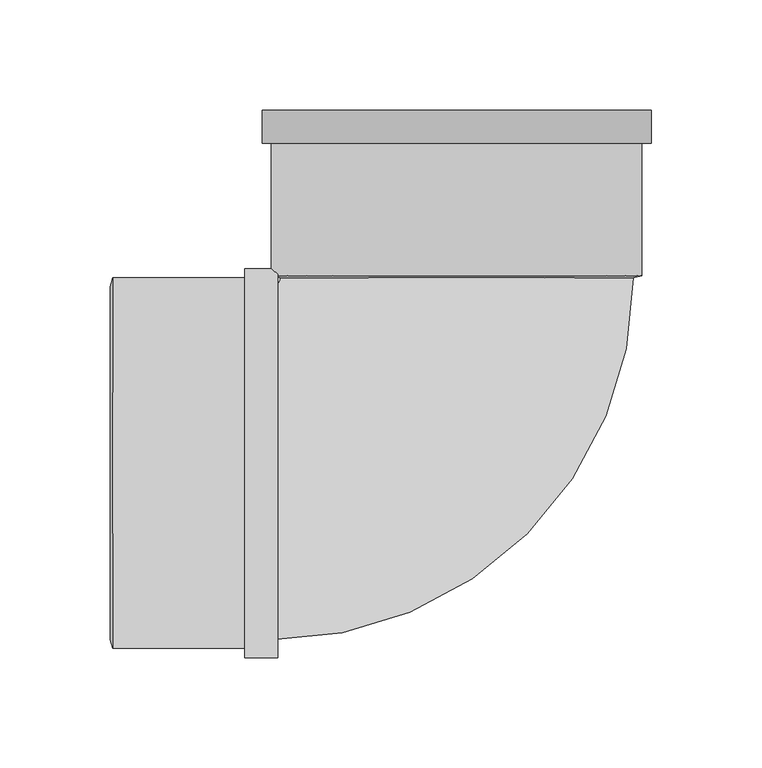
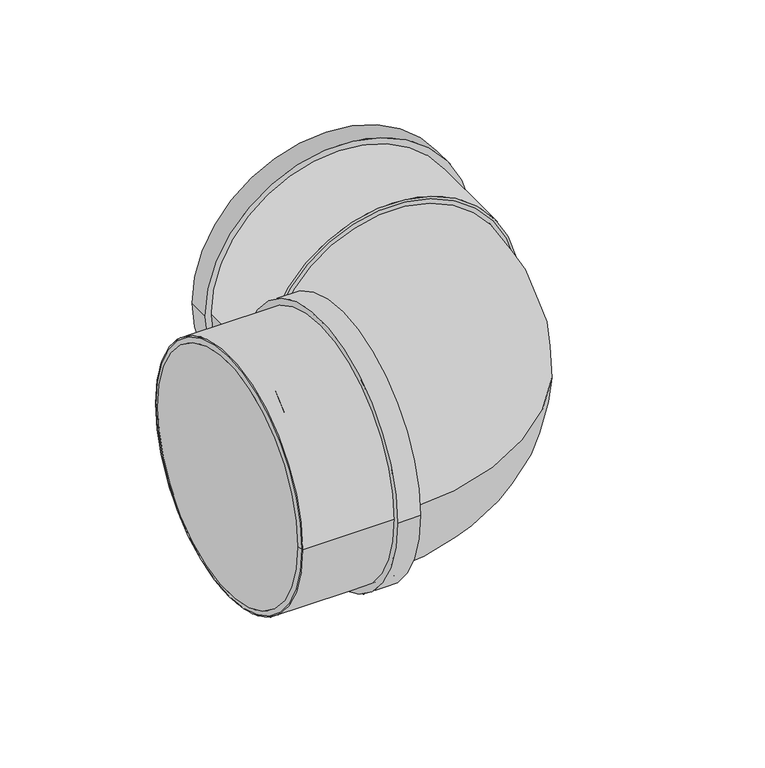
"""IFC4 building model written with IfcOpenShell, lengths in millimetres: pipe fitting geometry, Superdrain HT Bend Composite 2x45 : Superdrain HT Bend Composite 2x45."""

import ifcopenshell
import ifcopenshell.guid

model = None  # the IFC model being written
_history = None  # IfcOwnerHistory: only IFC2X3 demands one
_inside = {}  # id of a spatial element -> (the spatial element, [elements in it])
_under = {}  # id of a project, library or spatial element -> (it, [spatial elements below it])
_declared = {}  # id of a project -> (the project, [libraries it declares])
_typed = {}  # id of a type object -> (the type object, [elements of that type])
_made_of = {}  # id of a material, layer set ... -> (it, [elements and type objects made of it])


def new_model(schema):
    """Start an empty IFC model of exactly this schema.

    Asked for "IFC4X3", IfcOpenShell would pick the latest addendum, in which some entities
    have other attributes; the version numbers below select the first issue.
    IFC2X3 requires an IfcOwnerHistory on every rooted entity: one is made here for all.
    """
    global model, _history
    if schema == "IFC4X3":
        model = ifcopenshell.file(schema_version=(4, 3, 0, 0))
    else:
        model = ifcopenshell.file(schema=schema)
    _inside.clear()
    _under.clear()
    _declared.clear()
    _typed.clear()
    _made_of.clear()
    _history = None
    if model.schema == "IFC2X3":
        org = make("IfcOrganization", Name="unknown")
        user = make(
            "IfcPersonAndOrganization",
            ThePerson=make("IfcPerson", FamilyName="unknown"),
            TheOrganization=org,
        )
        app = make(
            "IfcApplication",
            ApplicationDeveloper=org,
            Version="unknown",
            ApplicationFullName="unknown",
            ApplicationIdentifier="unknown",
        )
        _history = make(
            "IfcOwnerHistory",
            OwningUser=user,
            OwningApplication=app,
            ChangeAction="ADDED",
            CreationDate=0,
        )
    return model


def make(cls, **values):
    """One entity of the class cls with the attributes given. An attribute that is None is left unset."""
    return model.create_entity(
        cls, **{name: value for name, value in values.items() if value is not None}
    )


def rooted(cls, **values):
    """An entity with a GlobalId (a new one), such as an element, a storey or a relation."""
    return make(cls, GlobalId=ifcopenshell.guid.new(), OwnerHistory=_history, **values)


def si_unit(unit_type, name, prefix=None):
    """IfcSIUnit, for example si_unit("LENGTHUNIT", "METRE", prefix="MILLI")."""
    return make("IfcSIUnit", UnitType=unit_type, Prefix=prefix, Name=name)


def assignment(units):
    """IfcUnitAssignment: the units of a project."""
    return None if units is None else make("IfcUnitAssignment", Units=units)


def point(xyz):
    """IfcCartesianPoint."""
    return None if xyz is None else make("IfcCartesianPoint", Coordinates=xyz)


def direction(xyz):
    """IfcDirection."""
    return None if xyz is None else make("IfcDirection", DirectionRatios=xyz)


def frame(location, z_axis=None, x_axis=None):
    """IfcAxis2Placement3D, a coordinate frame: its origin and axes. An axis left out is left unset."""
    return make(
        "IfcAxis2Placement3D",
        Location=point(location),
        Axis=direction(z_axis),
        RefDirection=direction(x_axis),
    )


def frame_2d(location, x_axis=None):
    """IfcAxis2Placement2D, a coordinate frame in the plane: its origin and x axis."""
    return make(
        "IfcAxis2Placement2D", Location=point(location), RefDirection=direction(x_axis)
    )


def origin():
    """The frame at (0, 0, 0) with its axes left unset."""
    return frame((0.0, 0.0, 0.0))


def origin_2d():
    """The frame at (0, 0) in the plane with its x axis left unset."""
    return frame_2d((0.0, 0.0))


def place(relative_to, where):
    """IfcLocalPlacement: puts the frame where relative to a parent placement (None: the world)."""
    return make(
        "IfcLocalPlacement", PlacementRelTo=relative_to, RelativePlacement=where
    )


def context(
    kind, dimensions, precision=None, world=None, true_north=None, identifier=None
):
    """IfcGeometricRepresentationContext, for example the 3D "Model" context."""
    return make(
        "IfcGeometricRepresentationContext",
        ContextIdentifier=identifier,
        ContextType=kind,
        CoordinateSpaceDimension=dimensions,
        Precision=precision,
        WorldCoordinateSystem=world,
        TrueNorth=true_north,
    )


def project(units=None, contexts=None):
    """IfcProject with its units and contexts."""
    return rooted(
        "IfcProject",
        Name="project",
        RepresentationContexts=contexts,
        UnitsInContext=assignment(units),
    )


def spatial(cls, under=None, at=None, **own):
    """A site, building, storey or space (cls), placed at a placement, below another one or the project."""
    s = rooted(cls, ObjectPlacement=at, **own)
    if under is not None:
        _under.setdefault(under.id(), (under, []))[1].append(s)
    return s


def polyline(points):
    """IfcPolyline through the points."""
    return make("IfcPolyline", Points=[point(p) for p in points])


def circle_curve(where, radius):
    """IfcCircle in the frame where."""
    return make("IfcCircle", Position=where, Radius=radius)


def ellipse_curve(where, semi_axis1, semi_axis2):
    """IfcEllipse in the frame where."""
    return make(
        "IfcEllipse", Position=where, SemiAxis1=semi_axis1, SemiAxis2=semi_axis2
    )


def trimmed(basis, trim1, trim2, sense, master):
    """IfcTrimmedCurve: the piece of a basis curve between two trims."""
    return make(
        "IfcTrimmedCurve",
        BasisCurve=basis,
        Trim1=trim1,
        Trim2=trim2,
        SenseAgreement=sense,
        MasterRepresentation=master,
    )


def segment(curve, same_sense, transition):
    """IfcCompositeCurveSegment."""
    return make(
        "IfcCompositeCurveSegment",
        Transition=transition,
        SameSense=same_sense,
        ParentCurve=curve,
    )


def composite_curve(segments, self_intersect=None):
    """IfcCompositeCurve: segments joined end to end."""
    return make("IfcCompositeCurve", Segments=segments, SelfIntersect=self_intersect)


def outline(outer, holes=None, kind="AREA"):
    """IfcArbitraryClosedProfileDef: a profile drawn as a closed curve; with holes, ...WithVoids."""
    if holes is None:
        return make("IfcArbitraryClosedProfileDef", ProfileType=kind, OuterCurve=outer)
    return make(
        "IfcArbitraryProfileDefWithVoids",
        ProfileType=kind,
        OuterCurve=outer,
        InnerCurves=holes,
    )


def extrude(swept, where, along, depth):
    """IfcExtrudedAreaSolid: the profile swept, set in the frame where, extruded along a direction by depth."""
    return make(
        "IfcExtrudedAreaSolid",
        SweptArea=swept,
        Position=where,
        ExtrudedDirection=direction(along),
        Depth=depth,
    )


def shape(context_of_items, identifier, shape_type, items):
    """IfcShapeRepresentation: the items that make up one representation, for example the "Body"."""
    return make(
        "IfcShapeRepresentation",
        ContextOfItems=context_of_items,
        RepresentationIdentifier=identifier,
        RepresentationType=shape_type,
        Items=items,
    )


def source(mapping_origin, context_of_items, identifier, shape_type, items):
    """IfcRepresentationMap: a shape defined once, which mapped items show again and again."""
    return make(
        "IfcRepresentationMap",
        MappingOrigin=mapping_origin,
        MappedRepresentation=shape(context_of_items, identifier, shape_type, items),
    )


def transform(
    local_origin,
    x_axis=None,
    y_axis=None,
    z_axis=None,
    scale=None,
    scale2=None,
    scale3=None,
    uniform=True,
):
    """IfcCartesianTransformationOperator3D, or its non-uniform kind. x_axis, y_axis, z_axis: its Axis1, 2, 3."""
    if uniform:
        return make(
            "IfcCartesianTransformationOperator3D",
            Axis1=direction(x_axis),
            Axis2=direction(y_axis),
            LocalOrigin=point(local_origin),
            Scale=scale,
            Axis3=direction(z_axis),
        )
    return make(
        "IfcCartesianTransformationOperator3DnonUniform",
        Axis1=direction(x_axis),
        Axis2=direction(y_axis),
        LocalOrigin=point(local_origin),
        Scale=scale,
        Axis3=direction(z_axis),
        Scale2=scale2,
        Scale3=scale3,
    )


def mapped(mapping_source, mapping_target):
    """IfcMappedItem: shows the shape of a source again, moved by a transform."""
    return make(
        "IfcMappedItem", MappingSource=mapping_source, MappingTarget=mapping_target
    )


def made_of(thing, what):
    """Note that an element or type object is made of a material, layer set ...; save() writes the relation."""
    if what is not None:
        _made_of.setdefault(what.id(), (what, []))[1].append(thing)
    return thing


def element(
    cls,
    number,
    at=None,
    inside=None,
    cuts=None,
    type_object=None,
    material=None,
    context=None,
    identifier="Body",
    shape_type=None,
    held_by="IfcProductDefinitionShape",
    body=None,
    shapes=None,
    **own,
):
    """One element of the class cls, such as IfcWall. Its Tag is "e" and its number.

    at: its placement. inside: the storey or other place that contains it. cuts: it is an
    opening in that element (IfcRelVoidsElement). A single representation is given by context,
    identifier, shape_type and body (its items); several are given by shapes. held_by: the class
    of the entity that holds the representations. save() writes the other relations.
    """
    e = rooted(cls, Tag="e%d" % number, ObjectPlacement=at, **own)
    if body is not None:
        shapes = [shape(context, identifier, shape_type, body)]
    if shapes is not None:
        e.Representation = make(held_by, Representations=shapes)
    if inside is not None:
        _inside.setdefault(inside.id(), (inside, []))[1].append(e)
    if cuts is not None:
        rooted(
            "IfcRelVoidsElement", RelatingBuildingElement=cuts, RelatedOpeningElement=e
        )
    if type_object is not None:
        _typed.setdefault(type_object.id(), (type_object, []))[1].append(e)
    return made_of(e, material)


def aggregate(whole, parts):
    """IfcRelAggregates: a whole, such as a stair, and the parts it consists of."""
    return rooted("IfcRelAggregates", RelatingObject=whole, RelatedObjects=parts)


def save(model, path):
    """Write the relations noted so far, then the file.

    IfcRelAggregates (storeys below a building ...), IfcRelContainedInSpatialStructure (elements
    in a storey), IfcRelDefinesByType, IfcRelAssociatesMaterial and IfcRelDeclares: one each for
    every whole, place, type object, material and project.
    """
    for whole, parts in _under.values():
        aggregate(whole, parts)
    for where, things in _inside.values():
        rooted(
            "IfcRelContainedInSpatialStructure",
            RelatedElements=things,
            RelatingStructure=where,
        )
    for kind, things in _typed.values():
        rooted("IfcRelDefinesByType", RelatedObjects=things, RelatingType=kind)
    for what, things in _made_of.values():
        rooted("IfcRelAssociatesMaterial", RelatedObjects=things, RelatingMaterial=what)
    for by, libraries in _declared.values():
        rooted("IfcRelDeclares", RelatingContext=by, RelatedDefinitions=libraries)
    model.write(path)


def plane_surface(at):
    """IfcPlane: the flat surface through the origin of the frame at, square to its z axis."""
    return make("IfcPlane", Position=at)


def revolved_surface(curve, axis_point, axis_direction):
    """IfcSurfaceOfRevolution: the curve turned about the line through axis_point along axis_direction."""
    return make(
        "IfcSurfaceOfRevolution",
        SweptCurve=make("IfcArbitraryOpenProfileDef", ProfileType="CURVE", Curve=curve),
        AxisPosition=make("IfcAxis1Placement", Location=point(axis_point), Axis=direction(axis_direction)),
    )


def advanced_brep(points, edges, surfaces, faces):
    """IfcAdvancedBrep: a solid bounded by faces that lie on surfaces and meet in shared edges.

    An edge is (start, end): straight between two places in points (the first is 0);
    or (start, end, curve); or (start, end, curve, False) where it runs against its curve.
    A face is (place in surfaces, loops), or (place, loops, False) where it looks against
    its surface's normal. A loop lists edges by number (the first is 1), with a minus sign
    where the edge is run from its end to its start. The first loop is the outer one.
    """
    corners = [point(p) for p in points]
    vertices = [make("IfcVertexPoint", VertexGeometry=c) for c in corners]
    made = []
    for start, end, *more in edges:
        made.append(
            make(
                "IfcEdgeCurve",
                EdgeStart=vertices[start],
                EdgeEnd=vertices[end],
                EdgeGeometry=more[0] if more else make("IfcPolyline", Points=[corners[start], corners[end]]),
                SameSense=more[1] if len(more) > 1 else True,
            )
        )
    hull = []
    for where, loops, *sense in faces:
        bounds = []
        for j, loop in enumerate(loops):
            ring = [make("IfcOrientedEdge", EdgeElement=made[abs(k) - 1], Orientation=k > 0) for k in loop]
            bounds.append(
                make(
                    "IfcFaceOuterBound" if j == 0 else "IfcFaceBound",
                    Bound=make("IfcEdgeLoop", EdgeList=ring),
                    Orientation=True,
                )
            )
        hull.append(make("IfcAdvancedFace", Bounds=bounds, FaceSurface=surfaces[where], SameSense=sense[0] if sense else True))
    return make("IfcAdvancedBrep", Outer=make("IfcClosedShell", CfsFaces=hull))


def pipe_fitting_de0aebfd(model_context):
    return source(origin(), model_context, "Body", "SolidModel", [
        extrude(outline(composite_curve([segment(trimmed(circle_curve(origin_2d(), 84.0), [point((84.0, 0.0))], [point((-84.0, 0.0))], False, "CARTESIAN"), True, "CONTINUOUS"), segment(trimmed(circle_curve(origin_2d(), 84.0), [point((-84.0, 0.0))], [point((84.0, 0.0))], False, "CARTESIAN"), True, "CONTINUOUS")], self_intersect=False), holes=[composite_curve([segment(trimmed(circle_curve(origin_2d(), 80.0), [point((80.0, 0.0))], [point((-80.0, 0.0))], True, "CARTESIAN"), True, "CONTINUOUS"), segment(trimmed(circle_curve(origin_2d(), 80.0), [point((-80.0, 0.0))], [point((80.0, 0.0))], True, "CARTESIAN"), True, "CONTINUOUS")], self_intersect=False)]), frame((-156.0, 0.0, 0.0), z_axis=(1.0, 0.0, 0.0), x_axis=(0.0, 1.0, 0.0)), (0.0, 0.0, 1.0), 75.0),
        extrude(outline(composite_curve([segment(trimmed(circle_curve(origin_2d(), 88.2), [point((88.2, 0.0))], [point((-88.2, 0.0))], False, "CARTESIAN"), True, "CONTINUOUS"), segment(trimmed(circle_curve(origin_2d(), 88.2), [point((-88.2, 0.0))], [point((88.2, 0.0))], False, "CARTESIAN"), True, "CONTINUOUS")], self_intersect=False), holes=[composite_curve([segment(trimmed(circle_curve(origin_2d(), 80.0), [point((80.0, 0.0))], [point((-80.0, 0.0))], True, "CARTESIAN"), True, "CONTINUOUS"), segment(trimmed(circle_curve(origin_2d(), 80.0), [point((-80.0, 0.0))], [point((80.0, 0.0))], True, "CARTESIAN"), True, "CONTINUOUS")], self_intersect=False)]), frame((-96.0, 0.0, 0.0), z_axis=(1.0, 0.0, 0.0), x_axis=(0.0, 1.0, 0.0)), (0.0, 0.0, 1.0), 15.0),
        advanced_brep(
        [(-157.0, 80.0, 0.0), (-157.0, -80.0, 0.0), (-156.0, 84.0, 0.0), (-156.0, -84.0, 0.0)],
        [
            (0, 1, circle_curve(frame((-157.0, 0.0, 0.0), z_axis=(-1.0, 0.0, 0.0), x_axis=(0.0, 1.0, 0.0)), 80.0)),
            (1, 0, circle_curve(frame((-157.0, 0.0, 0.0), z_axis=(-1.0, 0.0, 0.0), x_axis=(0.0, -1.0, 0.0)), 80.0)),
            (2, 3, circle_curve(frame((-156.0, 0.0, 0.0), z_axis=(1.0, 0.0, 0.0), x_axis=(0.0, -1.0, 0.0)), 84.0)),
            (3, 2, circle_curve(frame((-156.0, 0.0, 0.0), z_axis=(1.0, 0.0, 0.0), x_axis=(0.0, 1.0, 0.0)), 84.0)),
            (3, 1),
            (0, 2),
        ],
        [
            plane_surface(frame((-157.0, 0.0, 0.0), z_axis=(-1.0, 0.0, 0.0), x_axis=(0.0, 0.0, -1.0))),
            plane_surface(frame((-156.0, 0.0, 0.0), z_axis=(1.0, 0.0, 0.0), x_axis=(0.0, 0.0, -1.0))),
            revolved_surface(polyline([(-157.0, 80.0, 0.0), (-156.0, 84.0, 0.0)]), (-177.0, 0.0, 0.0), (1.0, 0.0, 0.0)),
            revolved_surface(polyline([(-157.0, -80.0, 0.0), (-156.0, -84.0, 0.0)]), (-177.0, 0.0, 0.0), (1.0, 0.0, 0.0)),
        ],
        [
            (0, [[1, 2]]),
            (1, [[3, 4]]),
            (2, [[-4, 5, -1, 6]]),
            (3, [[-3, -6, -2, -5]]),
        ],
    ),
        advanced_brep(
        [(80.0, 83.9, 0.0), (-80.0, 83.9, 0.0), (-83.9, -80.0, 0.0), (-83.9, 80.0, 0.0)],
        [
            (0, 1, circle_curve(frame((0.0, 83.9, 0.0), z_axis=(0.0, 1.0, 0.0), x_axis=(-1.0, 0.0, 0.0)), 80.0)),
            (1, 0, circle_curve(frame((0.0, 83.9, 0.0), z_axis=(0.0, 1.0, 0.0), x_axis=(-1.0, 0.0, 0.0)), 80.0)),
            (2, 3, circle_curve(frame((-83.9, 0.0, 0.0), z_axis=(-1.0, 0.0, 0.0), x_axis=(0.0, 1.0, 0.0)), 80.0)),
            (3, 2, circle_curve(frame((-83.9, 0.0, 0.0), z_axis=(-1.0, 0.0, 0.0), x_axis=(0.0, 1.0, 0.0)), 80.0)),
            (3, 1, circle_curve(frame((-83.9, 83.9, 0.0), z_axis=(0.0, 0.0, 1.0), x_axis=(1.0, 0.0, 0.0)), 3.9)),
            (0, 2, circle_curve(frame((-83.9, 83.9, 0.0), z_axis=(0.0, 0.0, -1.0), x_axis=(1.0, 0.0, 0.0)), 163.9)),
        ],
        [
            plane_surface(frame((0.0, 83.9, 0.0), z_axis=(0.0, 1.0, 0.0), x_axis=(0.0, 0.0, -1.0))),
            plane_surface(frame((-83.9, 0.0, 0.0), z_axis=(-1.0, 0.0, 0.0), x_axis=(0.0, 0.0, -1.0))),
            revolved_surface(trimmed(ellipse_curve(frame((0.0, 83.9, 0.0), z_axis=(0.0, -1.0, 0.0), x_axis=(-1.0, 0.0, 0.0)), 80.0, 80.0), [point((-80.0, 83.9, 0.0))], [point((80.0, 83.9, 0.0))], True, "CARTESIAN"), (-83.9, 83.9, 0.0), (0.0, 0.0, 1.0)),
            revolved_surface(trimmed(ellipse_curve(frame((0.0, 83.9, 0.0), z_axis=(0.0, -1.0, 0.0), x_axis=(-1.0, 0.0, 0.0)), 80.0, 80.0), [point((80.0, 83.9, 0.0))], [point((-80.0, 83.9, 0.0))], True, "CARTESIAN"), (-83.9, 83.9, 0.0), (0.0, 0.0, 1.0)),
        ],
        [
            (0, [[1, 2]]),
            (1, [[3, 4]]),
            (2, [[-4, 5, -1, 6]]),
            (3, [[-3, -6, -2, -5]]),
        ],
    ),
        extrude(outline(composite_curve([segment(trimmed(circle_curve(origin_2d(), 84.0), [point((0.0, 84.0))], [point((0.0, -84.0))], False, "CARTESIAN"), True, "CONTINUOUS"), segment(trimmed(circle_curve(origin_2d(), 84.0), [point((0.0, -84.0))], [point((0.0, 84.0))], False, "CARTESIAN"), True, "CONTINUOUS")], self_intersect=False), holes=[composite_curve([segment(trimmed(circle_curve(origin_2d(), 80.0), [point((0.0, 80.0))], [point((0.0, -80.0))], True, "CARTESIAN"), True, "CONTINUOUS"), segment(trimmed(circle_curve(origin_2d(), 80.0), [point((0.0, -80.0))], [point((0.0, 80.0))], True, "CARTESIAN"), True, "CONTINUOUS")], self_intersect=False)]), frame((0.0, 84.9, 0.0), z_axis=(0.0, 1.0, 0.0), x_axis=(0.0, 0.0, 1.0)), (0.0, 0.0, 1.0), 75.0),
        extrude(outline(composite_curve([segment(trimmed(circle_curve(origin_2d(), 88.2), [point((0.0, -88.2))], [point((0.0, 88.2))], False, "CARTESIAN"), True, "CONTINUOUS"), segment(trimmed(circle_curve(origin_2d(), 88.2), [point((0.0, 88.2))], [point((0.0, -88.2))], False, "CARTESIAN"), True, "CONTINUOUS")], self_intersect=False), holes=[composite_curve([segment(trimmed(circle_curve(origin_2d(), 80.0), [point((0.0, -80.0))], [point((0.0, 80.0))], True, "CARTESIAN"), True, "CONTINUOUS"), segment(trimmed(circle_curve(origin_2d(), 80.0), [point((0.0, 80.0))], [point((0.0, -80.0))], True, "CARTESIAN"), True, "CONTINUOUS")], self_intersect=False)]), frame((0.0, 144.9, 0.0), z_axis=(0.0, 1.0, 0.0), x_axis=(0.0, 0.0, 1.0)), (0.0, 0.0, 1.0), 15.0),
        advanced_brep(
        [(84.0, 84.9, 0.0), (-84.0, 84.9, 0.0), (80.0, 83.9, 0.0), (-80.0, 83.9, 0.0)],
        [
            (0, 1, circle_curve(frame((0.0, 84.9, 0.0), z_axis=(0.0, 1.0, 0.0), x_axis=(1.0, 0.0, 0.0)), 84.0)),
            (1, 0, circle_curve(frame((0.0, 84.9, 0.0), z_axis=(0.0, 1.0, 0.0), x_axis=(-1.0, 0.0, 0.0)), 84.0)),
            (2, 3, circle_curve(frame((0.0, 83.9, 0.0), z_axis=(0.0, -1.0, 0.0), x_axis=(-1.0, 0.0, 0.0)), 80.0)),
            (3, 2, circle_curve(frame((0.0, 83.9, 0.0), z_axis=(0.0, -1.0, 0.0), x_axis=(1.0, 0.0, 0.0)), 80.0)),
            (3, 1),
            (0, 2),
        ],
        [
            plane_surface(frame((0.0, 84.9, 0.0), z_axis=(0.0, 1.0, 0.0), x_axis=(0.0, 0.0, -1.0))),
            plane_surface(frame((0.0, 83.9, 0.0), z_axis=(0.0, -1.0, 0.0), x_axis=(0.0, 0.0, -1.0))),
            revolved_surface(polyline([(-80.0, 83.9, 0.0), (-84.0, 84.9, 0.0)]), (0.0, 63.9, 0.0), (0.0, 1.0, 0.0)),
            revolved_surface(polyline([(80.0, 83.9, 0.0), (84.0, 84.9, 0.0)]), (0.0, 63.9, 0.0), (0.0, 1.0, 0.0)),
        ],
        [
            (0, [[1, 2]]),
            (1, [[3, 4]]),
            (2, [[-4, 5, -1, 6]]),
            (3, [[-3, -6, -2, -5]]),
        ],
    ),
        extrude(outline(composite_curve([segment(trimmed(circle_curve(origin_2d(), 80.0), [point((-80.0, 0.0))], [point((80.0, 0.0))], False, "CARTESIAN"), True, "CONTINUOUS"), segment(trimmed(circle_curve(origin_2d(), 80.0), [point((80.0, 0.0))], [point((-80.0, 0.0))], False, "CARTESIAN"), True, "CONTINUOUS")], self_intersect=False)), frame((-156.0, 0.0, 0.0), z_axis=(1.0, 0.0, 0.0), x_axis=(0.0, 1.0, 0.0)), (0.0, 0.0, 1.0), 72.1),
    ])


if __name__ == "__main__":
    model = new_model("IFC4")
    model_context = context("Model", 3, world=origin())
    ifc_project = project(units=[si_unit("LENGTHUNIT", "METRE", prefix="MILLI")], contexts=[model_context])
    site = spatial("IfcSite", under=ifc_project)
    building = spatial("IfcBuilding", under=site)
    placement = place(None, origin())
    pipe_fitting_shape = pipe_fitting_de0aebfd(model_context)
    element("IfcPipeFitting", 1, ObjectType="Superdrain HT Bend Composite 2x45 : Superdrain HT Bend Composite 2x45", at=placement, inside=building, context=model_context, shape_type="MappedRepresentation", body=[
        mapped(pipe_fitting_shape, transform((0.0, 0.0, 0.0), x_axis=(1.0, 0.0, 0.0), y_axis=(0.0, 1.0, 0.0), z_axis=(0.0, 0.0, 1.0))),
    ])
    save(model, "model.ifc")
